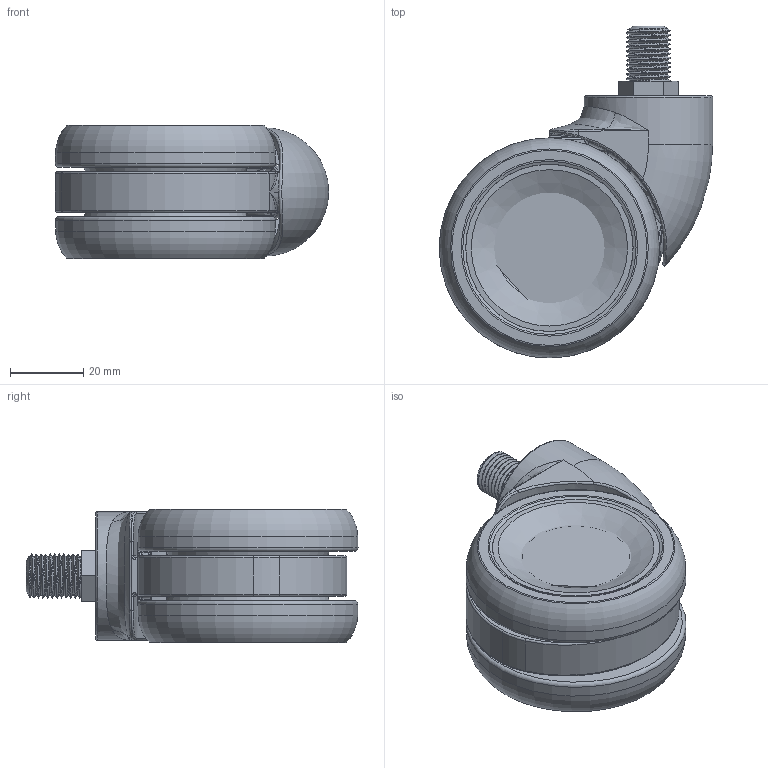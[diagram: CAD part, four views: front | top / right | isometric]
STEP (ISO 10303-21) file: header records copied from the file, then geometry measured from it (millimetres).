
FILE_DESCRIPTION (( 'STEP AP203' ), '1' );
FILE_NAME ('K09U35(M12).STEP', '2025-04-10T10:18:37', ( '' ), ( '' ), 'SwSTEP 2.0', 'SolidWorks 2025', '' );
FILE_SCHEMA (( 'CONFIG_CONTROL_DESIGN' ));
Length unit declared in the file: millimetre
Products named in the file (5): 35カバー_2; K09U35(M12); TPU車輪; M12縦軸; 本体
Assembly tree (5 placements, depth 2):
  K09U35(M12)
    本体
    M12縦軸
    TPU車輪  x2
    35カバー_2
Bounding box: 74.5 x 90.5 x 36.4 mm (x, y, z)
Volume: 85266.6 mm3; surface area: 62638.5 mm2
Topology: 9 solids, 10 shells, 721 faces, 1965 edges, 1180 vertices
Faces by surface type: plane 271, cylinder 146, bspline 121, torus 93, cone 58, sphere 32
Full cylindrical faces by diameter (mm): 2.3 x45, 7.7 x1, 9 x2, 9.4 x2, 15.6 x1, 16 x2, 16.2 x1, 17 x1, 34 x2, 34.95 x1, 35 x2, 36 x4, 36.4 x4, 38.35 x3, 44.15 x3, 46 x2, 46.95 x1, 47 x1, 54.897 x4
Entity records: 26526 total; most frequent: CARTESIAN_POINT 12712, ORIENTED_EDGE 2776, DIRECTION 2569, EDGE_CURVE 1388, AXIS2_PLACEMENT_3D 1129, VERTEX_POINT 906, EDGE_LOOP 862, FACE_OUTER_BOUND 705
